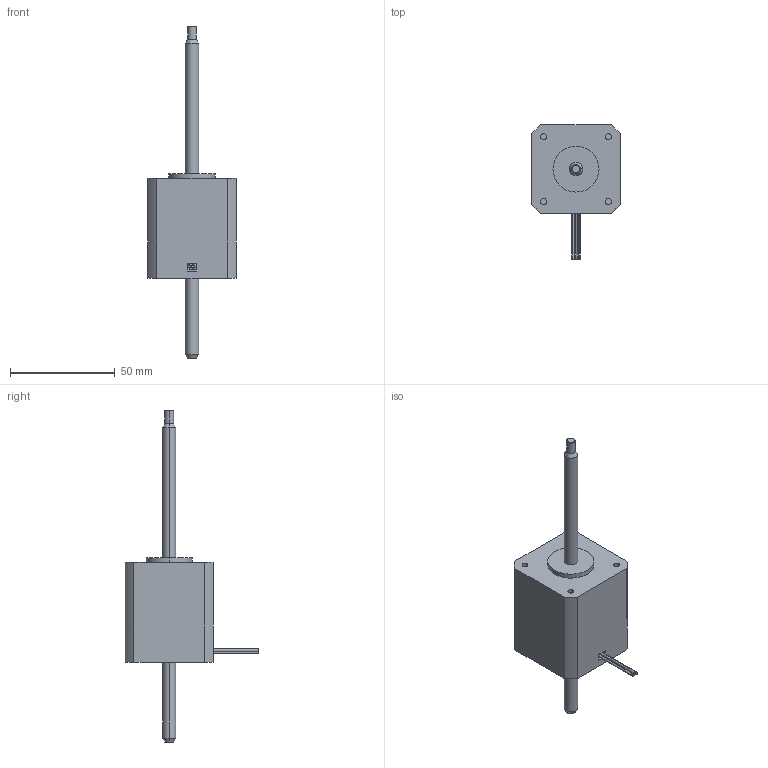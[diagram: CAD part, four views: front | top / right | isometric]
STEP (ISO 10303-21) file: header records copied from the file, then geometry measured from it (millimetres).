
FILE_DESCRIPTION (( 'STEP AP214' ), '1' );
FILE_NAME ('AMETEK-43L4B-2.33-6-12-PTFE-M3.STEP', '2019-06-29T16:49:10', ( '' ), ( '' ), 'SwSTEP 2.0', 'SolidWorks 2019', '' );
FILE_SCHEMA (( 'AUTOMOTIVE_DESIGN' ));
Length unit declared in the file: inch
Products named in the file (3): AMETEK-43L4B-2.33-6-12-PTFE-M3_43000 Non-Captive Screw; AMETEK-43L4B-2.33-6-12-PTFE-M3_43000 Double Stack Non-Captive; AMETEK-43L4B-2.33-6-12-PTFE-M3
Assembly tree (2 placements, depth 2):
  AMETEK-43L4B-2.33-6-12-PTFE-M3
    AMETEK-43L4B-2.33-6-12-PTFE-M3_43000 Double Stack Non-Captive
    AMETEK-43L4B-2.33-6-12-PTFE-M3_43000 Non-Captive Screw
Bounding box: 42.2 x 64.03 x 158.75 mm (x, y, z)
Volume: 87507.2 mm3; surface area: 15921.1 mm2
Topology: 2 solids, 2 shells, 59 faces, 124 edges, 80 vertices
Faces by surface type: cylinder 30, plane 23, cone 6
Entity records: 2389 total; most frequent: DIRECTION 316, CARTESIAN_POINT 268, ORIENTED_EDGE 248, AXIS2_PLACEMENT_3D 128, EDGE_CURVE 124, VERTEX_POINT 80, EDGE_LOOP 72, CIRCLE 64
